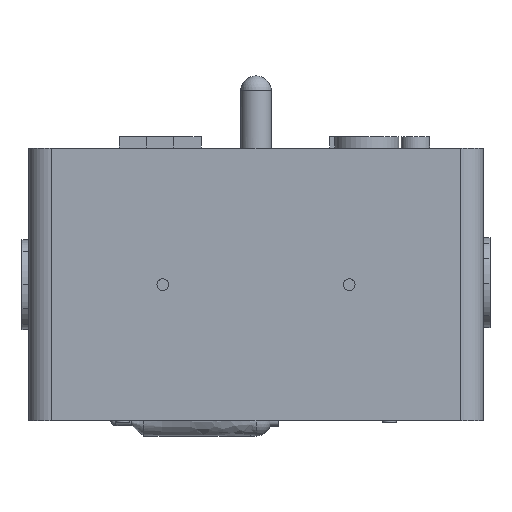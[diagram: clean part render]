
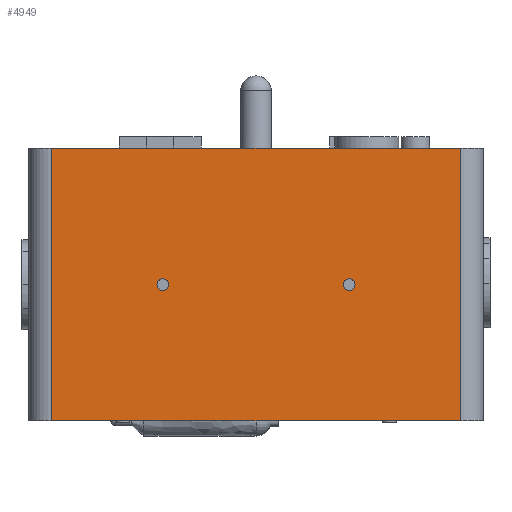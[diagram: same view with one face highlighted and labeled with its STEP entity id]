
A CAD part, front view. The second image highlights one B-rep face of the part: STEP entity #4949.
In plain terms, the highlighted planar face has unit normal (0, -1, 0).
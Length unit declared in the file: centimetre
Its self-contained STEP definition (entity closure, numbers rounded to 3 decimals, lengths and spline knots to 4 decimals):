
#1525=VERTEX_POINT('',#14130);
#1527=VERTEX_POINT('',#14136);
#1528=VERTEX_POINT('',#14140);
#1529=VERTEX_POINT('',#14141);
#1530=VERTEX_POINT('',#14143);
#1531=VERTEX_POINT('',#14145);
#2017=EDGE_CURVE('',#1525,#1525,#5849,.T.);
#2019=EDGE_CURVE('',#1527,#1527,#5851,.T.);
#2020=EDGE_CURVE('',#1528,#1529,#7797,.T.);
#2021=EDGE_CURVE('',#1528,#1530,#7798,.T.);
#2022=EDGE_CURVE('',#1531,#1530,#7799,.T.);
#2023=EDGE_CURVE('',#1531,#1529,#7800,.T.);
#2727=ORIENTED_EDGE('',*,*,#2020,.F.);
#2728=ORIENTED_EDGE('',*,*,#2021,.T.);
#2729=ORIENTED_EDGE('',*,*,#2022,.F.);
#2730=ORIENTED_EDGE('',*,*,#2023,.T.);
#2731=ORIENTED_EDGE('',*,*,#2019,.T.);
#2732=ORIENTED_EDGE('',*,*,#2017,.T.);
#4137=EDGE_LOOP('',(#2727,#2728,#2729,#2730));
#4138=EDGE_LOOP('',(#2731));
#4139=EDGE_LOOP('',(#2732));
#4544=FACE_BOUND('',#4137,.T.);
#4545=FACE_BOUND('',#4138,.T.);
#4546=FACE_BOUND('',#4139,.T.);
#4949=ADVANCED_FACE('',(#4544,#4545,#4546),#11227,.T.);
#5849=CIRCLE('',#10125,0.066);
#5851=CIRCLE('',#10129,0.066);
#7797=LINE('',#14139,#10736);
#7798=LINE('',#14142,#10737);
#7799=LINE('',#14144,#10738);
#7800=LINE('',#14146,#10739);
#10125=AXIS2_PLACEMENT_3D('',#14129,#11907,#11908);
#10129=AXIS2_PLACEMENT_3D('',#14135,#11914,#11915);
#10131=AXIS2_PLACEMENT_3D('',#14138,#11917,$);
#10736=VECTOR('',#11918,1.);
#10737=VECTOR('',#11919,1.);
#10738=VECTOR('',#11920,1.);
#10739=VECTOR('',#11921,1.);
#11227=PLANE('',#10131);
#11907=DIRECTION('',(0.,1.,0.));
#11908=DIRECTION('',(0.066,0.,0.));
#11914=DIRECTION('',(0.,1.,0.));
#11915=DIRECTION('',(0.066,0.,0.));
#11917=DIRECTION('',(0.,-1.,0.));
#11918=DIRECTION('',(0.,0.,1.));
#11919=DIRECTION('',(1.,0.,0.));
#11920=DIRECTION('',(0.,0.,-1.));
#11921=DIRECTION('',(-1.,0.,0.));
#14129=CARTESIAN_POINT('',(1.0413,-3.81,1.5207));
#14130=CARTESIAN_POINT('',(1.1074,-3.81,1.5207));
#14135=CARTESIAN_POINT('',(-1.0413,-3.81,1.5207));
#14136=CARTESIAN_POINT('',(-0.9753,-3.81,1.5207));
#14138=CARTESIAN_POINT('',(0.,-3.81,0.));
#14139=CARTESIAN_POINT('',(-2.286,-3.81,0.));
#14140=CARTESIAN_POINT('',(-2.286,-3.81,0.));
#14141=CARTESIAN_POINT('',(-2.286,-3.81,3.048));
#14142=CARTESIAN_POINT('',(-2.54,-3.81,0.));
#14143=CARTESIAN_POINT('',(2.286,-3.81,0.));
#14144=CARTESIAN_POINT('',(2.286,-3.81,0.));
#14145=CARTESIAN_POINT('',(2.286,-3.81,3.048));
#14146=CARTESIAN_POINT('',(-2.54,-3.81,3.048));
